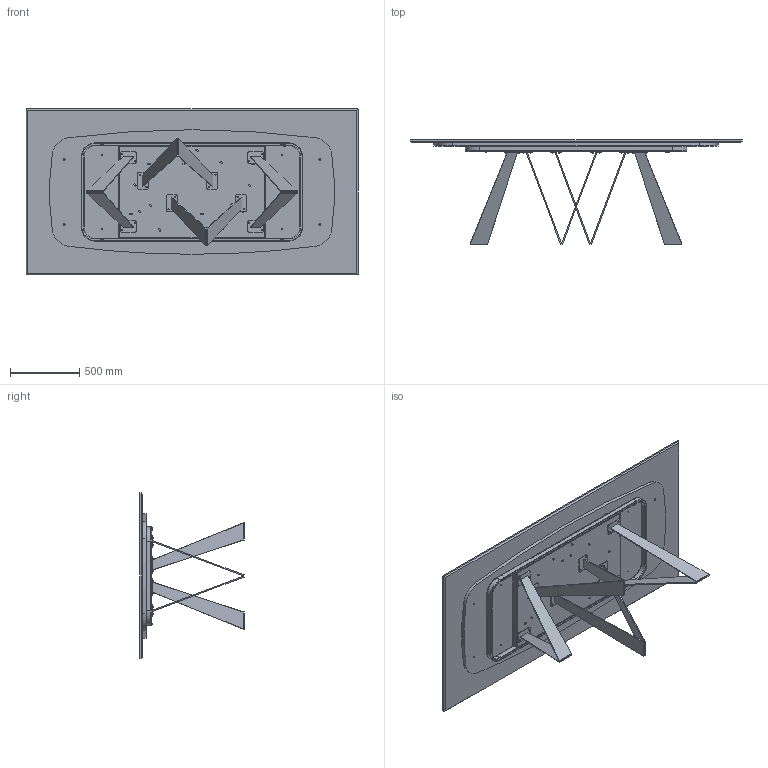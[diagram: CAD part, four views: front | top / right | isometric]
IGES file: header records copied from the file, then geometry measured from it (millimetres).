
Start section: SolidWorks IGES file using analytic representation for surfaces
Global section: file name: Y:\eforma\TECNICO\SOLIDWORKS\E-FORMA\1-TAVOLI\NOA TAVOLO\02 parts\NO23M_Noa_240x120x75h_Marble Rectangular.IGS; native system: SolidWorks 2022; preprocessor: SolidWorks 2022; author: eforma.tech; date: 240807.162515; units: millimetre
Bounding box: 2400 x 754.8 x 1200 mm (x, y, z)
Volume: 109425954.8 mm3; surface area: 13487978.7 mm2
Topology: 71 solids, 71 shells, 1723 faces, 3961 edges, 2341 vertices
Faces by surface type: revolution 1081, plane 642
